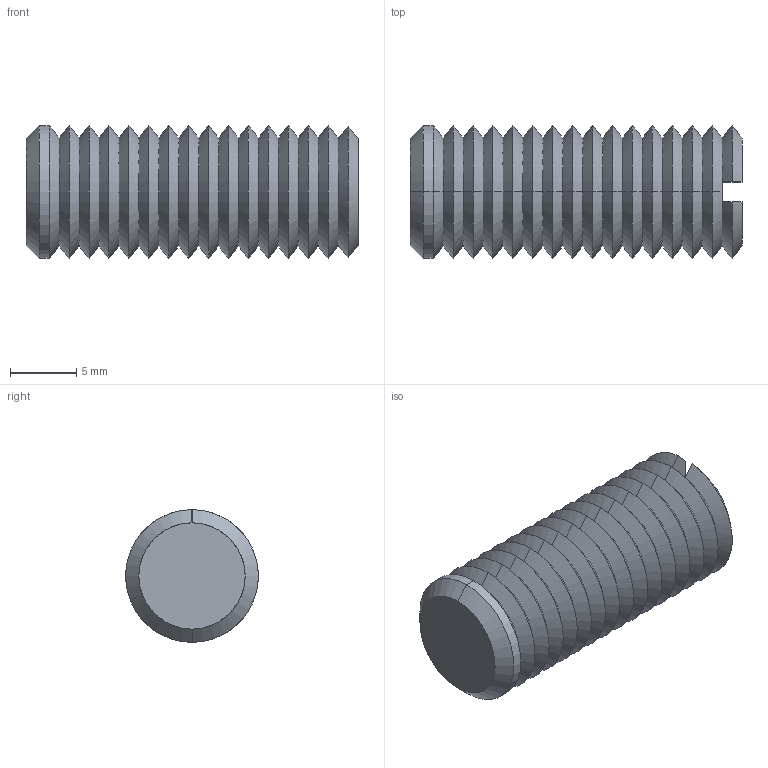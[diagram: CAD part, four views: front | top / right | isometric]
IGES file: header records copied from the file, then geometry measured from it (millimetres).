
Start section: SolidWorks IGES file using analytic representation for surfaces
Global section: file name: C:\Documents and Settings\IANO\Desktop\Temp File\Process pending\EXISTING\34300_v2\34300_v2_20170622_IGES\34300.W0100.igs; native system: SolidWorks 2009; preprocessor: SolidWorks 2009; author: IANO; date: 170622.093932; units: millimetre
Bounding box: 25 x 10 x 10 mm (x, y, z)
Surface area: 1244.5 mm2 (no closed solid volume)
Topology: 0 solids, 0 shells, 72 faces, 352 edges, 352 vertices
Faces by surface type: revolution 66, bspline 6
